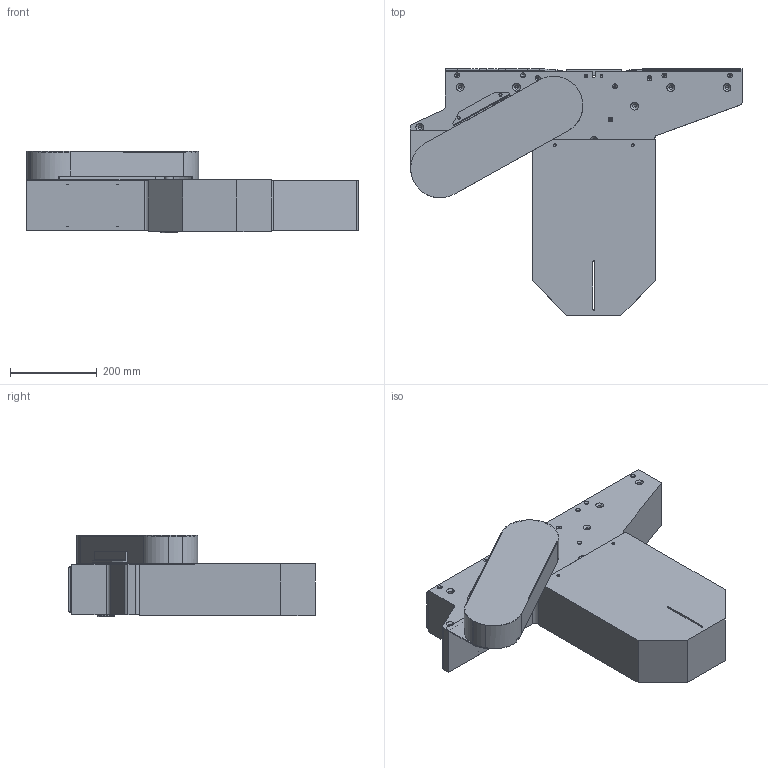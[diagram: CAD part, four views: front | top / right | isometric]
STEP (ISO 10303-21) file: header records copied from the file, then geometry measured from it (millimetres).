
FILE_DESCRIPTION (( 'STEP AP214' ), '1' );
FILE_NAME ('FCCD SD 0R.step', '2017-04-07T11:06:03', ( '' ), ( '' ), 'SwSTEP 2.0', 'SolidWorks 2016', '' );
FILE_SCHEMA (( 'AUTOMOTIVE_DESIGN' ));
Length unit declared in the file: millimetre
Products named in the file (1): FCCD SD 0R
Bounding box: 766.48 x 569.47 x 188 mm (x, y, z)
Volume: 25352344.3 mm3; surface area: 1142744.5 mm2
Topology: 2 solids, 2 shells, 501 faces, 1209 edges, 697 vertices
Faces by surface type: cylinder 190, cone 174, plane 116, bspline 17, torus 4
Entity records: 16323 total; most frequent: CARTESIAN_POINT 3365, DIRECTION 2518, ORIENTED_EDGE 2246, EDGE_CURVE 1123, AXIS2_PLACEMENT_3D 960, VERTEX_POINT 697, LINE 598, VECTOR 598
